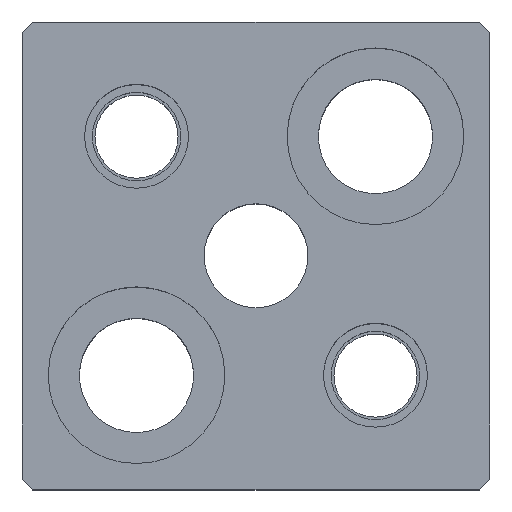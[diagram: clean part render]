
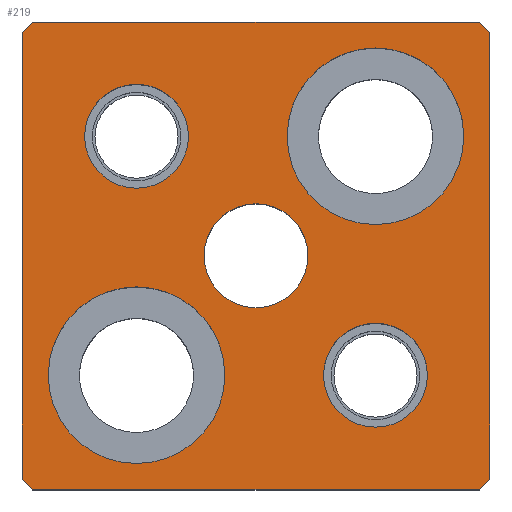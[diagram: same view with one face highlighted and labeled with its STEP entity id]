
A CAD part, top view. The second image highlights one B-rep face of the part: STEP entity #219.
In plain terms, the highlighted planar face has unit normal (0, 0, 1).
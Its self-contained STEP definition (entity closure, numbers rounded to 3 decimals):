
#99=FACE_BOUND('',#325,.T.);
#100=FACE_BOUND('',#326,.T.);
#101=FACE_BOUND('',#327,.T.);
#102=FACE_BOUND('',#328,.T.);
#103=FACE_BOUND('',#329,.T.);
#104=FACE_BOUND('',#330,.T.);
#149=CIRCLE('',#916,5.);
#151=CIRCLE('',#919,5.);
#153=CIRCLE('',#922,5.);
#155=CIRCLE('',#925,5.);
#165=CIRCLE('',#940,8.5);
#166=CIRCLE('',#941,8.5);
#167=CIRCLE('',#942,8.5);
#168=CIRCLE('',#943,8.5);
#169=CIRCLE('',#944,5.);
#170=CIRCLE('',#945,5.);
#219=ADVANCED_FACE('',(#99,#100,#101,#102,#103,#104),#258,.T.);
#258=PLANE('',#946);
#325=EDGE_LOOP('',(#461,#462,#463,#464,#465,#466,#467,#468));
#326=EDGE_LOOP('',(#469,#470));
#327=EDGE_LOOP('',(#471,#472));
#328=EDGE_LOOP('',(#473,#474));
#329=EDGE_LOOP('',(#475,#476));
#330=EDGE_LOOP('',(#477,#478));
#461=ORIENTED_EDGE('',*,*,#683,.T.);
#462=ORIENTED_EDGE('',*,*,#680,.T.);
#463=ORIENTED_EDGE('',*,*,#698,.T.);
#464=ORIENTED_EDGE('',*,*,#695,.T.);
#465=ORIENTED_EDGE('',*,*,#692,.T.);
#466=ORIENTED_EDGE('',*,*,#676,.T.);
#467=ORIENTED_EDGE('',*,*,#673,.T.);
#468=ORIENTED_EDGE('',*,*,#669,.T.);
#469=ORIENTED_EDGE('',*,*,#727,.F.);
#470=ORIENTED_EDGE('',*,*,#728,.F.);
#471=ORIENTED_EDGE('',*,*,#729,.F.);
#472=ORIENTED_EDGE('',*,*,#730,.F.);
#473=ORIENTED_EDGE('',*,*,#713,.F.);
#474=ORIENTED_EDGE('',*,*,#709,.F.);
#475=ORIENTED_EDGE('',*,*,#707,.F.);
#476=ORIENTED_EDGE('',*,*,#703,.F.);
#477=ORIENTED_EDGE('',*,*,#731,.T.);
#478=ORIENTED_EDGE('',*,*,#732,.T.);
#595=VERTEX_POINT('',#1264);
#596=VERTEX_POINT('',#1266);
#599=VERTEX_POINT('',#1274);
#601=VERTEX_POINT('',#1280);
#604=VERTEX_POINT('',#1287);
#605=VERTEX_POINT('',#1289);
#612=VERTEX_POINT('',#1312);
#614=VERTEX_POINT('',#1318);
#617=VERTEX_POINT('',#1333);
#618=VERTEX_POINT('',#1334);
#621=VERTEX_POINT('',#1345);
#622=VERTEX_POINT('',#1346);
#633=VERTEX_POINT('',#1381);
#634=VERTEX_POINT('',#1382);
#635=VERTEX_POINT('',#1385);
#636=VERTEX_POINT('',#1386);
#637=VERTEX_POINT('',#1389);
#638=VERTEX_POINT('',#1390);
#669=EDGE_CURVE('',#596,#595,#781,.T.);
#673=EDGE_CURVE('',#599,#596,#785,.T.);
#676=EDGE_CURVE('',#601,#599,#788,.T.);
#680=EDGE_CURVE('',#605,#604,#792,.T.);
#683=EDGE_CURVE('',#595,#605,#795,.T.);
#692=EDGE_CURVE('',#612,#601,#804,.T.);
#695=EDGE_CURVE('',#614,#612,#807,.T.);
#698=EDGE_CURVE('',#604,#614,#810,.T.);
#703=EDGE_CURVE('',#617,#618,#149,.T.);
#707=EDGE_CURVE('',#618,#617,#151,.T.);
#709=EDGE_CURVE('',#621,#622,#153,.T.);
#713=EDGE_CURVE('',#622,#621,#155,.T.);
#727=EDGE_CURVE('',#633,#634,#165,.T.);
#728=EDGE_CURVE('',#634,#633,#166,.T.);
#729=EDGE_CURVE('',#635,#636,#167,.T.);
#730=EDGE_CURVE('',#636,#635,#168,.T.);
#731=EDGE_CURVE('',#637,#638,#169,.T.);
#732=EDGE_CURVE('',#638,#637,#170,.T.);
#781=LINE('',#1265,#843);
#785=LINE('',#1273,#847);
#788=LINE('',#1279,#850);
#792=LINE('',#1288,#854);
#795=LINE('',#1294,#857);
#804=LINE('',#1311,#866);
#807=LINE('',#1317,#869);
#810=LINE('',#1323,#872);
#843=VECTOR('',#1005,1.);
#847=VECTOR('',#1011,1.);
#850=VECTOR('',#1016,1.);
#854=VECTOR('',#1022,1.);
#857=VECTOR('',#1027,1.);
#866=VECTOR('',#1042,1.);
#869=VECTOR('',#1047,1.);
#872=VECTOR('',#1052,1.);
#916=AXIS2_PLACEMENT_3D('',#1332,#1063,#1064);
#919=AXIS2_PLACEMENT_3D('',#1341,#1071,#1072);
#922=AXIS2_PLACEMENT_3D('',#1344,#1077,#1078);
#925=AXIS2_PLACEMENT_3D('',#1353,#1085,#1086);
#940=AXIS2_PLACEMENT_3D('',#1380,#1119,#1120);
#941=AXIS2_PLACEMENT_3D('',#1383,#1121,#1122);
#942=AXIS2_PLACEMENT_3D('',#1384,#1123,#1124);
#943=AXIS2_PLACEMENT_3D('',#1387,#1125,#1126);
#944=AXIS2_PLACEMENT_3D('',#1388,#1127,#1128);
#945=AXIS2_PLACEMENT_3D('',#1391,#1129,#1130);
#946=AXIS2_PLACEMENT_3D('',#1392,#1131,#1132);
#1005=DIRECTION('',(1.,0.,0.));
#1011=DIRECTION('',(0.707,-0.707,0.));
#1016=DIRECTION('',(0.,-1.,0.));
#1022=DIRECTION('',(0.,1.,0.));
#1027=DIRECTION('',(0.707,0.707,0.));
#1042=DIRECTION('',(-0.707,-0.707,0.));
#1047=DIRECTION('',(-1.,0.,0.));
#1052=DIRECTION('',(-0.707,0.707,0.));
#1063=DIRECTION('',(0.,0.,1.));
#1064=DIRECTION('',(-1.,0.,0.));
#1071=DIRECTION('',(0.,0.,1.));
#1072=DIRECTION('',(1.,0.,0.));
#1077=DIRECTION('',(0.,0.,1.));
#1078=DIRECTION('',(-1.,0.,0.));
#1085=DIRECTION('',(0.,0.,1.));
#1086=DIRECTION('',(1.,0.,0.));
#1119=DIRECTION('',(0.,0.,1.));
#1120=DIRECTION('',(1.,0.,0.));
#1121=DIRECTION('',(0.,0.,1.));
#1122=DIRECTION('',(-1.,0.,0.));
#1123=DIRECTION('',(0.,0.,1.));
#1124=DIRECTION('',(1.,0.,0.));
#1125=DIRECTION('',(0.,0.,1.));
#1126=DIRECTION('',(-1.,0.,0.));
#1127=DIRECTION('',(0.,0.,-1.));
#1128=DIRECTION('',(-1.,0.,0.));
#1129=DIRECTION('',(0.,0.,-1.));
#1130=DIRECTION('',(1.,0.,0.));
#1131=DIRECTION('',(0.,0.,1.));
#1132=DIRECTION('',(-1.,0.,0.));
#1264=CARTESIAN_POINT('',(21.5,-22.5,30.));
#1265=CARTESIAN_POINT('',(-21.5,-22.5,30.));
#1266=CARTESIAN_POINT('',(-21.5,-22.5,30.));
#1273=CARTESIAN_POINT('',(-21.5,-22.5,30.));
#1274=CARTESIAN_POINT('',(-22.5,-21.5,30.));
#1279=CARTESIAN_POINT('',(-22.5,21.5,30.));
#1280=CARTESIAN_POINT('',(-22.5,21.5,30.));
#1287=CARTESIAN_POINT('',(22.5,21.5,30.));
#1288=CARTESIAN_POINT('',(22.5,21.5,30.));
#1289=CARTESIAN_POINT('',(22.5,-21.5,30.));
#1294=CARTESIAN_POINT('',(22.5,-21.5,30.));
#1311=CARTESIAN_POINT('',(-22.5,21.5,30.));
#1312=CARTESIAN_POINT('',(-21.5,22.5,30.));
#1317=CARTESIAN_POINT('',(-21.5,22.5,30.));
#1318=CARTESIAN_POINT('',(21.5,22.5,30.));
#1323=CARTESIAN_POINT('',(21.5,22.5,30.));
#1332=CARTESIAN_POINT('',(11.5,-11.5,30.));
#1333=CARTESIAN_POINT('',(11.5,-16.5,30.));
#1334=CARTESIAN_POINT('',(11.5,-6.5,30.));
#1341=CARTESIAN_POINT('',(11.5,-11.5,30.));
#1344=CARTESIAN_POINT('',(-11.5,11.5,30.));
#1345=CARTESIAN_POINT('',(-11.5,6.5,30.));
#1346=CARTESIAN_POINT('',(-11.5,16.5,30.));
#1353=CARTESIAN_POINT('',(-11.5,11.5,30.));
#1380=CARTESIAN_POINT('',(11.5,11.5,30.));
#1381=CARTESIAN_POINT('',(11.5,20.,30.));
#1382=CARTESIAN_POINT('',(11.5,3.,30.));
#1383=CARTESIAN_POINT('',(11.5,11.5,30.));
#1384=CARTESIAN_POINT('',(-11.5,-11.5,30.));
#1385=CARTESIAN_POINT('',(-11.5,-3.,30.));
#1386=CARTESIAN_POINT('',(-11.5,-20.,30.));
#1387=CARTESIAN_POINT('',(-11.5,-11.5,30.));
#1388=CARTESIAN_POINT('',(0.,0.,30.));
#1389=CARTESIAN_POINT('',(0.,5.,30.));
#1390=CARTESIAN_POINT('',(0.,-5.,30.));
#1391=CARTESIAN_POINT('',(0.,0.,30.));
#1392=CARTESIAN_POINT('',(21.5,-22.5,30.));
